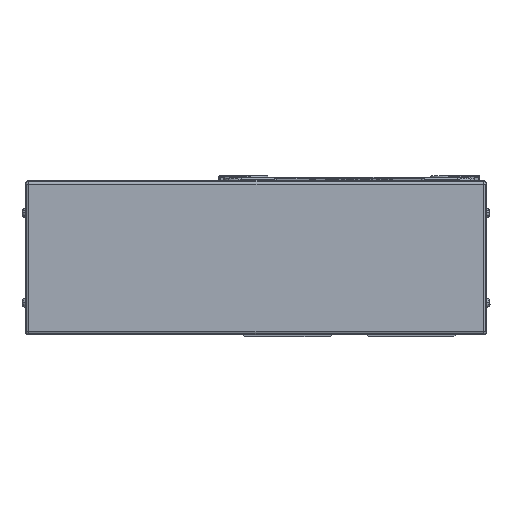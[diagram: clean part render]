
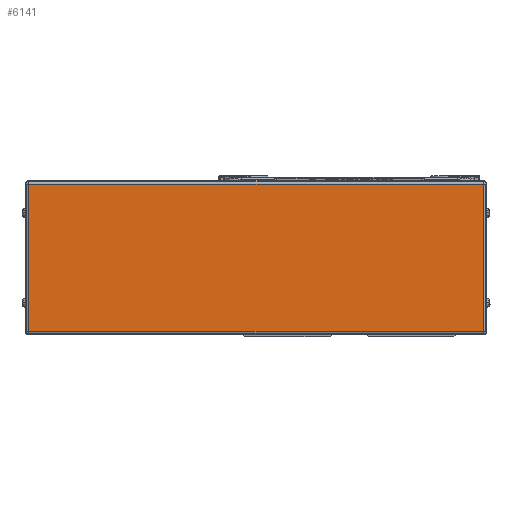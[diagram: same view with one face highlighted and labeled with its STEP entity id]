
A CAD part, left-side view. The second image highlights one B-rep face of the part: STEP entity #6141.
In plain terms, the highlighted planar face has unit normal (-1, 0, 0).
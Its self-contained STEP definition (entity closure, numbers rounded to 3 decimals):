
#6141=ADVANCED_FACE('',(#13076),#13077,.F.);
#13076=FACE_OUTER_BOUND('',#22074,.T.);
#13077=PLANE('',#22075);
#22074=EDGE_LOOP('',(#39456,#39457,#39458,#39459));
#22075=AXIS2_PLACEMENT_3D('',#39460,#39461,#39462);
#39456=ORIENTED_EDGE('',*,*,#54574,.T.);
#39457=ORIENTED_EDGE('',*,*,#51272,.T.);
#39458=ORIENTED_EDGE('',*,*,#54575,.T.);
#39459=ORIENTED_EDGE('',*,*,#54542,.T.);
#39460=CARTESIAN_POINT('',(-45.,180.5,0.));
#39461=DIRECTION('',(1.0,0.,0.));
#39462=DIRECTION('',(0.,0.,1.0));
#51272=EDGE_CURVE('',#62571,#62569,#62572,.T.);
#54542=EDGE_CURVE('',#67155,#67153,#67156,.T.);
#54574=EDGE_CURVE('',#67153,#62571,#67194,.T.);
#54575=EDGE_CURVE('',#62569,#67155,#67195,.T.);
#62569=VERTEX_POINT('',#77685);
#62571=VERTEX_POINT('',#77687);
#62572=LINE('',#77688,#77689);
#67153=VERTEX_POINT('',#84068);
#67155=VERTEX_POINT('',#84070);
#67156=LINE('',#84071,#84072);
#67194=LINE('',#84127,#84128);
#67195=LINE('',#84129,#84130);
#77685=CARTESIAN_POINT('',(-45.,-74.5,-41.));
#77687=CARTESIAN_POINT('',(-45.,178.5,-41.));
#77688=CARTESIAN_POINT('',(-45.,180.5,-41.));
#77689=VECTOR('',#91805,10.0);
#84068=CARTESIAN_POINT('',(-45.,178.5,41.));
#84070=CARTESIAN_POINT('',(-45.,-74.5,41.));
#84071=CARTESIAN_POINT('',(-45.,180.5,41.));
#84072=VECTOR('',#95847,10.0);
#84127=CARTESIAN_POINT('',(-45.,178.5,0.));
#84128=VECTOR('',#95877,10.0);
#84129=CARTESIAN_POINT('',(-45.,-74.5,0.));
#84130=VECTOR('',#95878,10.0);
#91805=DIRECTION('',(0.,-1.0,0.));
#95847=DIRECTION('',(0.,1.0,0.));
#95877=DIRECTION('',(0.,0.,-1.0));
#95878=DIRECTION('',(0.,0.,1.0));
